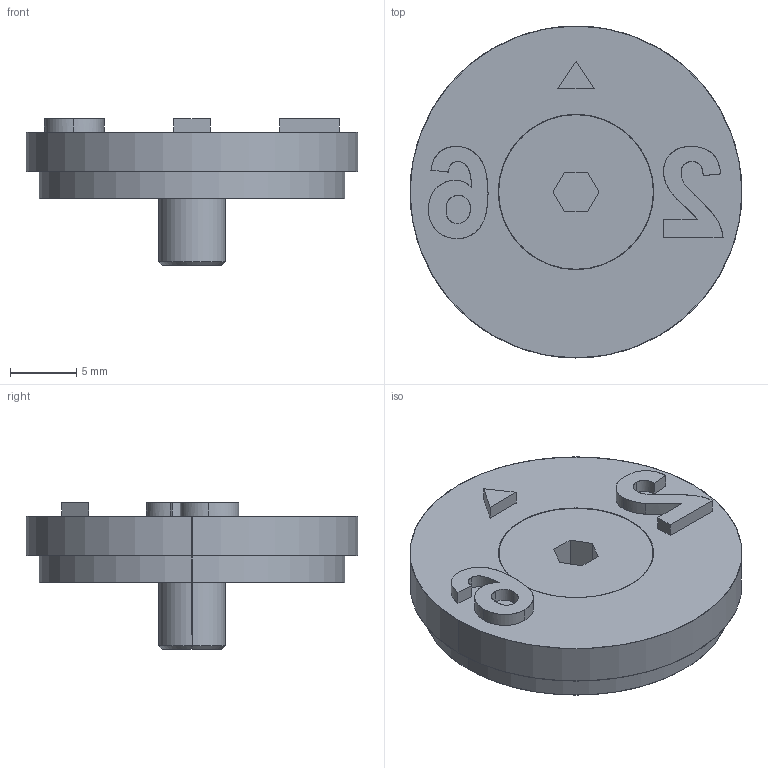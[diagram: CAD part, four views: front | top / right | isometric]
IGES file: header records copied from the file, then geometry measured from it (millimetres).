
Start section: SolidWorks IGES file using analytic representation for surfaces
Global section: file name: C:\temp\GO\Files\DLBRP40-26.igs; native system: SolidWorks 2023; preprocessor: SolidWorks 2023; author: andrew.sweeney; date: 250411.160534; units: millimetre
Bounding box: 25 x 25 x 11.02 mm (x, y, z)
Surface area: 1837.2 mm2 (no closed solid volume)
Topology: 0 solids, 0 shells, 60 faces, 968 edges, 968 vertices
Faces by surface type: bspline 46, revolution 14
